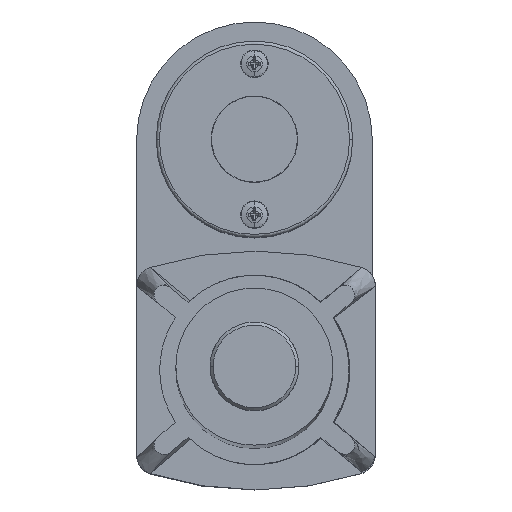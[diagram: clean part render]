
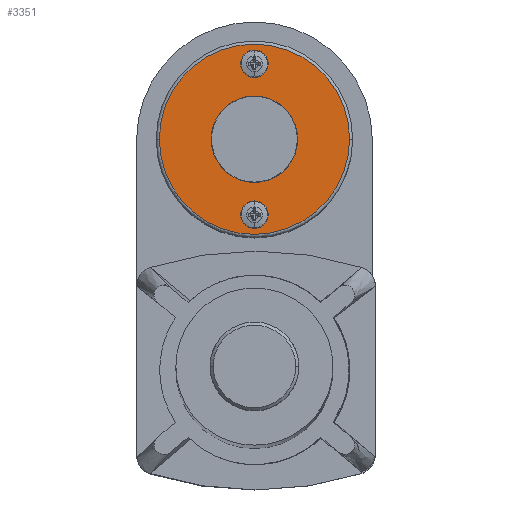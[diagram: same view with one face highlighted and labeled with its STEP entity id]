
A CAD part, top view. The second image highlights one B-rep face of the part: STEP entity #3351.
In plain terms, the highlighted planar face has unit normal (0, 0, 1).
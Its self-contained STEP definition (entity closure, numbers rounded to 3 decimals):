
#42 = EDGE_LOOP ( 'NONE', ( #9115, #11181 ) ) ;
#255 = CIRCLE ( 'NONE', #10421, 2.54 ) ;
#258 = ORIENTED_EDGE ( 'NONE', *, *, #9568, .T. ) ;
#313 = AXIS2_PLACEMENT_3D ( 'NONE', #8354, #9123, #8318 ) ;
#456 = VERTEX_POINT ( 'NONE', #679 ) ;
#679 = CARTESIAN_POINT ( 'NONE',  ( 36.068, -7.238, 406.098 ) ) ;
#1077 = FACE_BOUND ( 'NONE', #7070, .T. ) ;
#1194 = DIRECTION ( 'NONE',  ( 0., 0., 1. ) ) ;
#1322 = AXIS2_PLACEMENT_3D ( 'NONE', #8504, #10248, #5949 ) ;
#1587 = AXIS2_PLACEMENT_3D ( 'NONE', #7816, #10535, #8684 ) ;
#1622 = DIRECTION ( 'NONE',  ( -1., 0., 0. ) ) ;
#1690 = CIRCLE ( 'NONE', #1587, 30.75 ) ;
#2060 = FACE_BOUND ( 'NONE', #42, .T. ) ;
#2084 = DIRECTION ( 'NONE',  ( -1., 0., 0. ) ) ;
#2085 = EDGE_CURVE ( 'NONE', #5896, #5821, #3040, .T. ) ;
#2529 = CIRCLE ( 'NONE', #313, 2.54 ) ;
#3040 = CIRCLE ( 'NONE', #3161, 30.75 ) ;
#3112 = AXIS2_PLACEMENT_3D ( 'NONE', #5145, #5070, #6886 ) ;
#3117 = EDGE_CURVE ( 'NONE', #3208, #9711, #255, .T. ) ;
#3161 = AXIS2_PLACEMENT_3D ( 'NONE', #10016, #1194, #2084 ) ;
#3208 = VERTEX_POINT ( 'NONE', #5915 ) ;
#3351 = ADVANCED_FACE ( 'NONE', ( #2060, #1077, #5354 ), #8694, .T. ) ;
#3888 = ORIENTED_EDGE ( 'NONE', *, *, #10096, .F. ) ;
#4420 = DIRECTION ( 'NONE',  ( -1., 0., 0. ) ) ;
#4490 = VERTEX_POINT ( 'NONE', #7156 ) ;
#4950 = AXIS2_PLACEMENT_3D ( 'NONE', #6140, #6937, #4420 ) ;
#5048 = DIRECTION ( 'NONE',  ( 0., 0., 1. ) ) ;
#5070 = DIRECTION ( 'NONE',  ( 0., 0., 1. ) ) ;
#5145 = CARTESIAN_POINT ( 'NONE',  ( 38.608, -56.038, 406.098 ) ) ;
#5354 = FACE_OUTER_BOUND ( 'NONE', #9200, .T. ) ;
#5668 = EDGE_CURVE ( 'NONE', #4490, #456, #10900, .T. ) ;
#5821 = VERTEX_POINT ( 'NONE', #8765 ) ;
#5896 = VERTEX_POINT ( 'NONE', #8691 ) ;
#5915 = CARTESIAN_POINT ( 'NONE',  ( 36.068, -56.038, 406.098 ) ) ;
#5949 = DIRECTION ( 'NONE',  ( -1., 0., 0. ) ) ;
#6064 = ORIENTED_EDGE ( 'NONE', *, *, #2085, .T. ) ;
#6140 = CARTESIAN_POINT ( 'NONE',  ( 38.608, -31.638, 406.098 ) ) ;
#6547 = ORIENTED_EDGE ( 'NONE', *, *, #5668, .F. ) ;
#6886 = DIRECTION ( 'NONE',  ( -1., 0., 0. ) ) ;
#6937 = DIRECTION ( 'NONE',  ( 0., 0., 1. ) ) ;
#7070 = EDGE_LOOP ( 'NONE', ( #3888, #6547 ) ) ;
#7156 = CARTESIAN_POINT ( 'NONE',  ( 41.148, -7.238, 406.098 ) ) ;
#7253 = EDGE_CURVE ( 'NONE', #9711, #3208, #7713, .T. ) ;
#7713 = CIRCLE ( 'NONE', #3112, 2.54 ) ;
#7816 = CARTESIAN_POINT ( 'NONE',  ( 38.608, -31.638, 406.098 ) ) ;
#8318 = DIRECTION ( 'NONE',  ( -1., 0., 0. ) ) ;
#8354 = CARTESIAN_POINT ( 'NONE',  ( 38.608, -7.238, 406.098 ) ) ;
#8504 = CARTESIAN_POINT ( 'NONE',  ( 38.608, -7.238, 406.098 ) ) ;
#8684 = DIRECTION ( 'NONE',  ( -1., 0., 0. ) ) ;
#8691 = CARTESIAN_POINT ( 'NONE',  ( 7.858, -31.638, 406.098 ) ) ;
#8694 = PLANE ( 'NONE',  #4950 ) ;
#8765 = CARTESIAN_POINT ( 'NONE',  ( 69.358, -31.638, 406.098 ) ) ;
#9115 = ORIENTED_EDGE ( 'NONE', *, *, #3117, .F. ) ;
#9123 = DIRECTION ( 'NONE',  ( 0., 0., 1. ) ) ;
#9200 = EDGE_LOOP ( 'NONE', ( #6064, #258 ) ) ;
#9568 = EDGE_CURVE ( 'NONE', #5821, #5896, #1690, .T. ) ;
#9711 = VERTEX_POINT ( 'NONE', #9975 ) ;
#9975 = CARTESIAN_POINT ( 'NONE',  ( 41.148, -56.038, 406.098 ) ) ;
#10016 = CARTESIAN_POINT ( 'NONE',  ( 38.608, -31.638, 406.098 ) ) ;
#10096 = EDGE_CURVE ( 'NONE', #456, #4490, #2529, .T. ) ;
#10248 = DIRECTION ( 'NONE',  ( 0., 0., 1. ) ) ;
#10291 = CARTESIAN_POINT ( 'NONE',  ( 38.608, -56.038, 406.098 ) ) ;
#10421 = AXIS2_PLACEMENT_3D ( 'NONE', #10291, #5048, #1622 ) ;
#10535 = DIRECTION ( 'NONE',  ( 0., 0., 1. ) ) ;
#10900 = CIRCLE ( 'NONE', #1322, 2.54 ) ;
#11181 = ORIENTED_EDGE ( 'NONE', *, *, #7253, .F. ) ;
